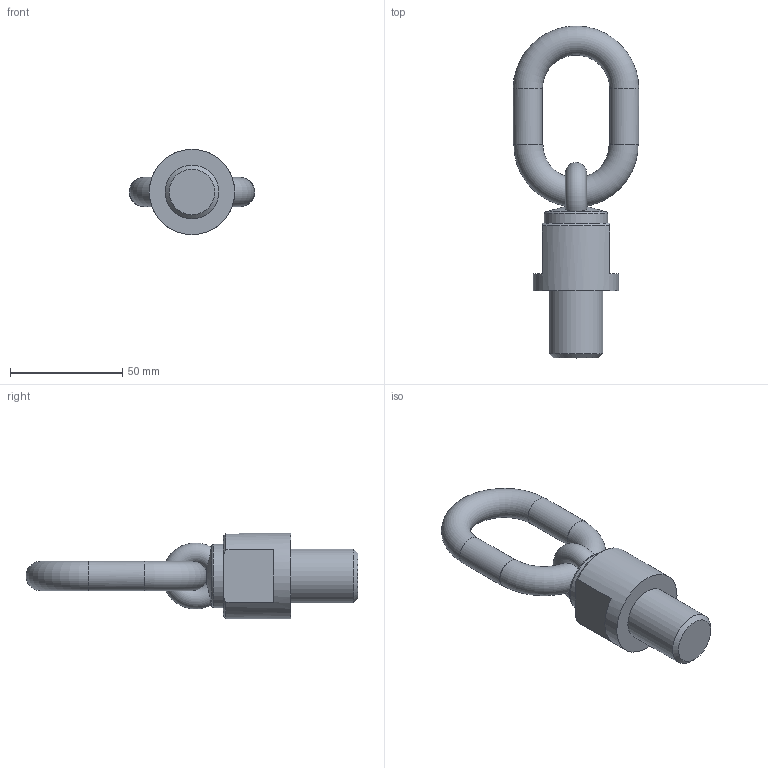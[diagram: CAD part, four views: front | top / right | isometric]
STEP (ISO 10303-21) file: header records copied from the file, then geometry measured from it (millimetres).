
FILE_DESCRIPTION( ( 'STEP AP203' ), '1' );
FILE_NAME( 'p:/temp/worker_22/temp/app_47_0201906261454283840668510e898ce_000000_00_00_000000/format_3/C800X0172430.stp', '2019-06-26T12:54:31', ( '' ), ( '' ), ' ', 'PARTsolutions', ' ' );
FILE_SCHEMA( ( 'CONFIG_CONTROL_DESIGN' ) );
Length unit declared in the file: millimetre
Products named in the file (1): _C800X0172430
Bounding box: 56 x 148 x 38 mm (x, y, z)
Volume: 75694.9 mm3; surface area: 16539.6 mm2
Topology: 1 solids, 1 shells, 25 faces, 65 edges, 40 vertices
Faces by surface type: plane 12, cylinder 5, torus 4, cone 4
Full cylindrical faces by diameter (mm): 13 x2, 24 x1, 28.2 x1, 38 x1
Entity records: 1042 total; most frequent: CARTESIAN_POINT 485, DIRECTION 110, ORIENTED_EDGE 86, AXIS2_PLACEMENT_3D 51, EDGE_CURVE 43, EDGE_LOOP 42, FACE_OUTER_BOUND 34, VERTEX_POINT 32
